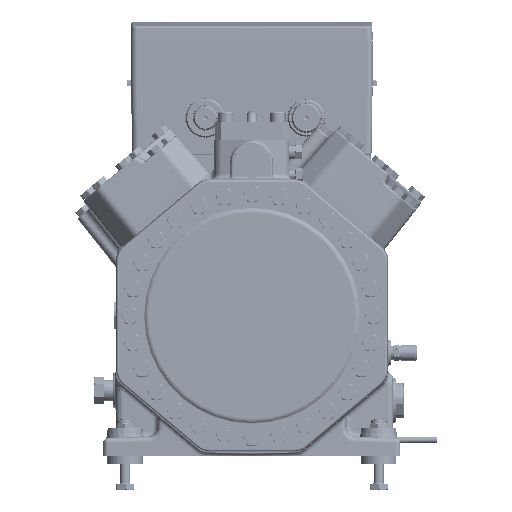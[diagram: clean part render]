
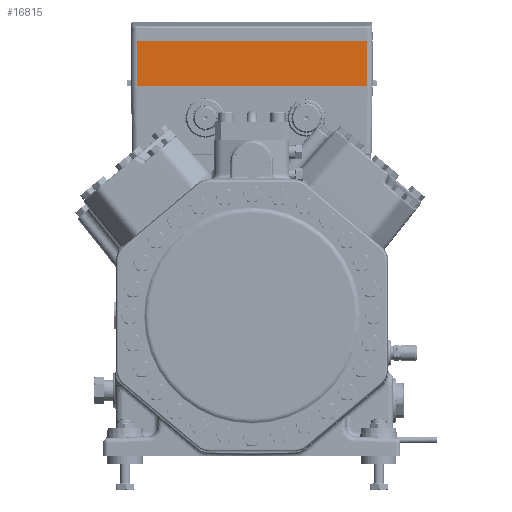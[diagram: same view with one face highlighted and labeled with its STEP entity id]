
A CAD part, front view. The second image highlights one B-rep face of the part: STEP entity #16815.
In plain terms, the highlighted planar face has unit normal (0, -1, 0).
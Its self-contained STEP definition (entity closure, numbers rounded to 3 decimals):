
#16815=ADVANCED_FACE('',(#26119),#21441,.T.);
#21441=PLANE('',#120129);
#26119=FACE_OUTER_BOUND('',#33203,.T.);
#33203=EDGE_LOOP('',(#61007,#61008,#61009,#61010));
#61007=ORIENTED_EDGE('',*,*,#93722,.F.);
#61008=ORIENTED_EDGE('',*,*,#93723,.T.);
#61009=ORIENTED_EDGE('',*,*,#93724,.T.);
#61010=ORIENTED_EDGE('',*,*,#93725,.T.);
#79551=VERTEX_POINT('',#190580);
#79552=VERTEX_POINT('',#190581);
#79553=VERTEX_POINT('',#190583);
#79554=VERTEX_POINT('',#190585);
#93722=EDGE_CURVE('',#79551,#79552,#103814,.T.);
#93723=EDGE_CURVE('',#79551,#79553,#103815,.T.);
#93724=EDGE_CURVE('',#79553,#79554,#103816,.T.);
#93725=EDGE_CURVE('',#79554,#79552,#103817,.T.);
#103814=LINE('',#190579,#110422);
#103815=LINE('',#190582,#110423);
#103816=LINE('',#190584,#110424);
#103817=LINE('',#190586,#110425);
#110422=VECTOR('',#141168,1.);
#110423=VECTOR('',#141169,1.);
#110424=VECTOR('',#141170,1.);
#110425=VECTOR('',#141171,1.);
#120129=AXIS2_PLACEMENT_3D('',#190587,#141172,#141173);
#141168=DIRECTION('',(1.,0.,0.));
#141169=DIRECTION('',(0.,0.,-1.));
#141170=DIRECTION('',(1.,0.,0.));
#141171=DIRECTION('',(0.,0.,1.));
#141172=DIRECTION('',(0.,-1.,0.));
#141173=DIRECTION('',(0.,0.,1.));
#190579=CARTESIAN_POINT('',(0.,-94.5,115.5));
#190580=CARTESIAN_POINT('',(-116.,-94.5,115.5));
#190581=CARTESIAN_POINT('',(116.,-94.5,115.5));
#190582=CARTESIAN_POINT('',(-116.,-94.5,118.));
#190583=CARTESIAN_POINT('',(-116.,-94.5,70.));
#190584=CARTESIAN_POINT('',(0.,-94.5,70.));
#190585=CARTESIAN_POINT('',(116.,-94.5,70.));
#190586=CARTESIAN_POINT('',(116.,-94.5,118.));
#190587=CARTESIAN_POINT('',(0.,-94.5,118.));
